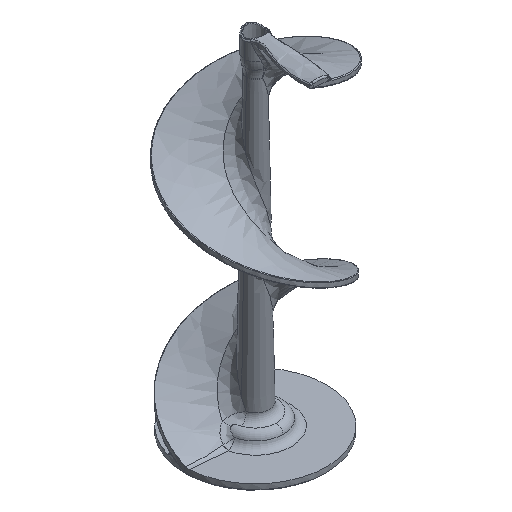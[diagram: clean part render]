
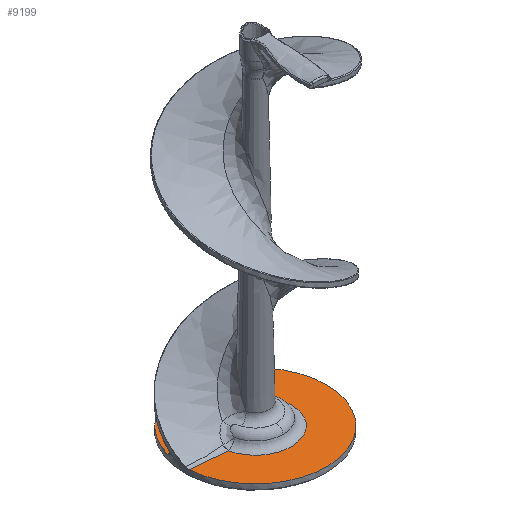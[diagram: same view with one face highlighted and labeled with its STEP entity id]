
A CAD part, isometric view. The second image highlights one B-rep face of the part: STEP entity #9199.
In plain terms, the highlighted planar face has unit normal (0, 0, 1).
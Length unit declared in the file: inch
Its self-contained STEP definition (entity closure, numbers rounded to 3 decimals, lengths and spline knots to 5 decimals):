
#2 = CARTESIAN_POINT ( 'NONE',  ( -1.05021, 0.38141, 0.09237 ) ) ;
#186 = DIRECTION ( 'NONE',  ( -1., 0., 0. ) ) ;
#598 = CARTESIAN_POINT ( 'NONE',  ( -1.52107, -0.13496, 0.09237 ) ) ;
#692 = DIRECTION ( 'NONE',  ( -1., 0., 0. ) ) ;
#766 = DIRECTION ( 'NONE',  ( 0., 0., -1. ) ) ;
#1499 = CARTESIAN_POINT ( 'NONE',  ( 0., 0., 0.09237 ) ) ;
#3148 = PLANE ( 'NONE',  #16180 ) ;
#3239 = FACE_OUTER_BOUND ( 'NONE', #15419, .T. ) ;
#3299 = CARTESIAN_POINT ( 'NONE',  ( -1.38172, -0.15308, 0.09237 ) ) ;
#3324 = EDGE_CURVE ( 'NONE', #11994, #10936, #4716, .T. ) ;
#3486 = ORIENTED_EDGE ( 'NONE', *, *, #17075, .F. ) ;
#3839 = CARTESIAN_POINT ( 'NONE',  ( -1.6017, 0.44879, 0.09237 ) ) ;
#4334 = VERTEX_POINT ( 'NONE', #12558 ) ;
#4402 = B_SPLINE_CURVE_WITH_KNOTS ( 'NONE', 3,
 ( #7069, #15086, #15172, #15258, #13782, #3299, #598, #7160 ),
 .UNSPECIFIED., .F., .F.,
 ( 4, 2, 2, 4 ),
 ( 0.01377, 0.01912, 0.02448, 0.03519 ),
 .UNSPECIFIED. ) ;
#4716 = B_SPLINE_CURVE_WITH_KNOTS ( 'NONE', 3,
 ( #3839, #10744, #9350, #2, #15723, #10490 ),
 .UNSPECIFIED., .F., .F.,
 ( 4, 2, 4 ),
 ( 0., 0.01058, 0.02117 ),
 .UNSPECIFIED. ) ;
#5164 = CIRCLE ( 'NONE', #10192, 1.66339 ) ;
#5264 = CARTESIAN_POINT ( 'NONE',  ( -1.6017, 0.44879, 0.09237 ) ) ;
#5385 = ORIENTED_EDGE ( 'NONE', *, *, #13333, .F. ) ;
#5850 = DIRECTION ( 'NONE',  ( 0., 0., -1. ) ) ;
#6724 = VERTEX_POINT ( 'NONE', #14256 ) ;
#6823 = DIRECTION ( 'NONE',  ( 0., 0., -1. ) ) ;
#7069 = CARTESIAN_POINT ( 'NONE',  ( -0.82069, -0.18808, 0.09237 ) ) ;
#7160 = CARTESIAN_POINT ( 'NONE',  ( -1.65969, -0.11085, 0.09237 ) ) ;
#7574 = ORIENTED_EDGE ( 'NONE', *, *, #3324, .T. ) ;
#7872 = VERTEX_POINT ( 'NONE', #10645 ) ;
#8008 = EDGE_CURVE ( 'NONE', #6724, #4334, #4402, .T. ) ;
#9075 = EDGE_CURVE ( 'NONE', #10936, #6724, #9485, .T. ) ;
#9177 = AXIS2_PLACEMENT_3D ( 'NONE', #1499, #6823, #186 ) ;
#9199 = ADVANCED_FACE ( 'NONE', ( #3239 ), #3148, .F. ) ;
#9350 = CARTESIAN_POINT ( 'NONE',  ( -1.32469, 0.42447, 0.09237 ) ) ;
#9485 = CIRCLE ( 'NONE', #9177, 0.84197 ) ;
#10034 = CARTESIAN_POINT ( 'NONE',  ( 0., 0., 0.09237 ) ) ;
#10192 = AXIS2_PLACEMENT_3D ( 'NONE', #10034, #5850, #692 ) ;
#10471 = CIRCLE ( 'NONE', #16324, 1.66339 ) ;
#10490 = CARTESIAN_POINT ( 'NONE',  ( -0.77874, 0.32011, 0.09237 ) ) ;
#10645 = CARTESIAN_POINT ( 'NONE',  ( 1.66339, 0., 0.09237 ) ) ;
#10744 = CARTESIAN_POINT ( 'NONE',  ( -1.46276, 0.4398, 0.09237 ) ) ;
#10936 = VERTEX_POINT ( 'NONE', #14638 ) ;
#11279 = DIRECTION ( 'NONE',  ( 0., -1., 0. ) ) ;
#11994 = VERTEX_POINT ( 'NONE', #5264 ) ;
#12558 = CARTESIAN_POINT ( 'NONE',  ( -1.65969, -0.11085, 0.09237 ) ) ;
#12731 = CARTESIAN_POINT ( 'NONE',  ( 0., 0., 0.09237 ) ) ;
#12766 = DIRECTION ( 'NONE',  ( 0., 0., -1. ) ) ;
#13333 = EDGE_CURVE ( 'NONE', #7872, #4334, #5164, .T. ) ;
#13782 = CARTESIAN_POINT ( 'NONE',  ( -1.17167, -0.17198, 0.09237 ) ) ;
#14256 = CARTESIAN_POINT ( 'NONE',  ( -0.82069, -0.18808, 0.09237 ) ) ;
#14638 = CARTESIAN_POINT ( 'NONE',  ( -0.77874, 0.32011, 0.09237 ) ) ;
#15086 = CARTESIAN_POINT ( 'NONE',  ( -0.89091, -0.18668, 0.09237 ) ) ;
#15172 = CARTESIAN_POINT ( 'NONE',  ( -0.96111, -0.18425, 0.09237 ) ) ;
#15258 = CARTESIAN_POINT ( 'NONE',  ( -1.10147, -0.1769, 0.09237 ) ) ;
#15419 = EDGE_LOOP ( 'NONE', ( #7574, #17181, #15993, #5385, #3486 ) ) ;
#15455 = CARTESIAN_POINT ( 'NONE',  ( 0., 0., 0.09237 ) ) ;
#15593 = DIRECTION ( 'NONE',  ( -1., 0., 0. ) ) ;
#15723 = CARTESIAN_POINT ( 'NONE',  ( -0.91358, 0.35359, 0.09237 ) ) ;
#15993 = ORIENTED_EDGE ( 'NONE', *, *, #8008, .T. ) ;
#16180 = AXIS2_PLACEMENT_3D ( 'NONE', #15455, #12766, #11279 ) ;
#16324 = AXIS2_PLACEMENT_3D ( 'NONE', #12731, #766, #15593 ) ;
#17075 = EDGE_CURVE ( 'NONE', #11994, #7872, #10471, .T. ) ;
#17181 = ORIENTED_EDGE ( 'NONE', *, *, #9075, .T. ) ;
